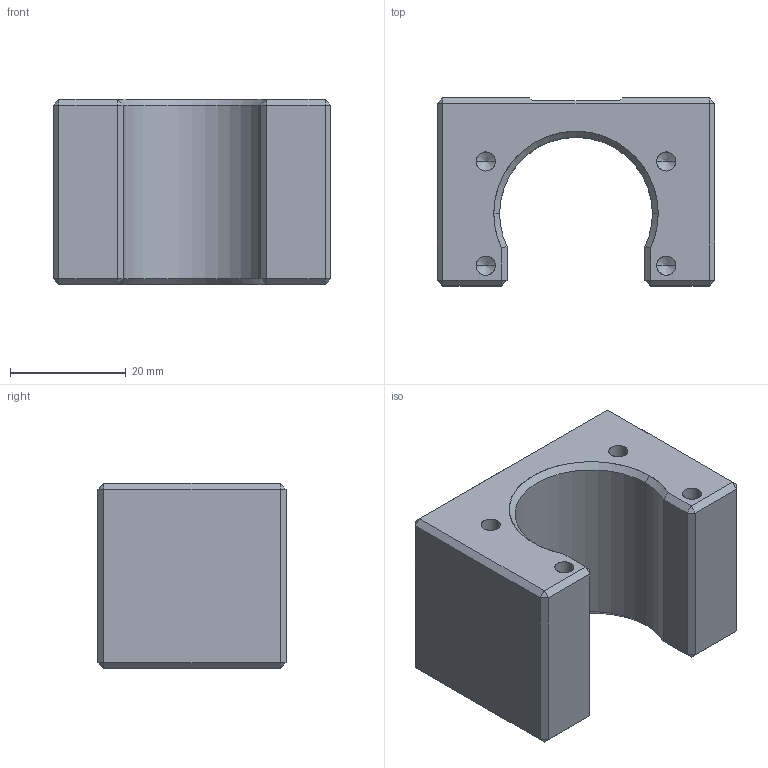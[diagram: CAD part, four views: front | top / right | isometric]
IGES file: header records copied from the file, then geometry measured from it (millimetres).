
Start section: SolidWorks IGES file using analytic representation for surfaces
Global section: file name: D:\目前進行中\MC系列螺帽座\MC1004\MC 1004.IGS; native system: SolidWorks 2008; preprocessor: SolidWorks 2008; author: 070; date: 080609.110644; units: millimetre
Bounding box: 48 x 32.5 x 32 mm (x, y, z)
Surface area: 9337.6 mm2 (no closed solid volume)
Topology: 0 solids, 0 shells, 86 faces, 682 edges, 666 vertices
Faces by surface type: bspline 45, revolution 41
